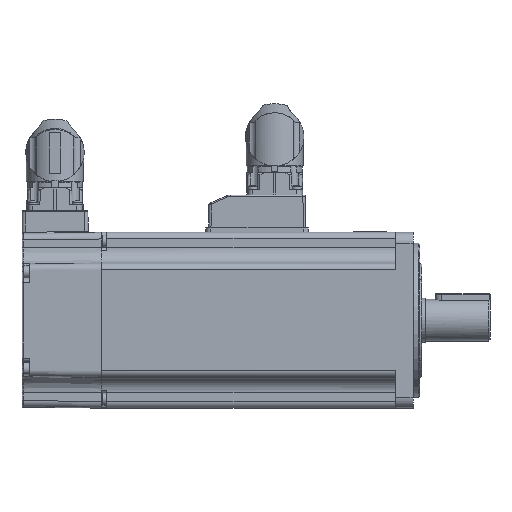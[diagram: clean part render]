
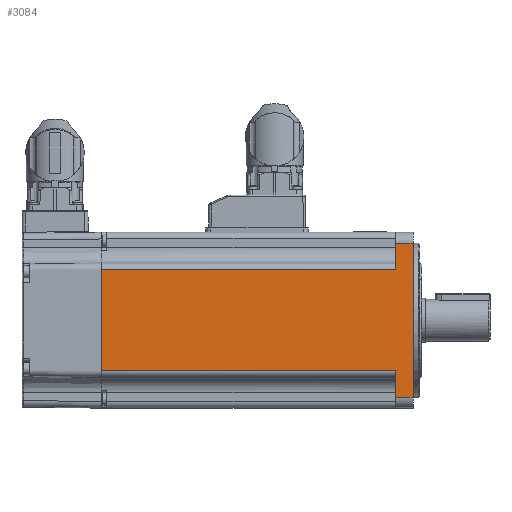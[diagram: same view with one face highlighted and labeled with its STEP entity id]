
A CAD part, left-side view. The second image highlights one B-rep face of the part: STEP entity #3084.
In plain terms, the highlighted planar face has unit normal (-1, 0, 0).
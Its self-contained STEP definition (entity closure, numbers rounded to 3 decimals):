
#3084 = ADVANCED_FACE( '', ( #8481 ), #8482, .T. );
#8481 = FACE_OUTER_BOUND( '', #17565, .T. );
#8482 = PLANE( '', #17566 );
#17565 = EDGE_LOOP( '', ( #36140, #36141, #36142, #36143, #36144, #36145, #36146, #36147 ) );
#17566 = AXIS2_PLACEMENT_3D( '', #36148, #36149, #36150 );
#36140 = ORIENTED_EDGE( '', *, *, #57329, .T. );
#36141 = ORIENTED_EDGE( '', *, *, #57330, .F. );
#36142 = ORIENTED_EDGE( '', *, *, #57331, .T. );
#36143 = ORIENTED_EDGE( '', *, *, #57332, .F. );
#36144 = ORIENTED_EDGE( '', *, *, #57333, .T. );
#36145 = ORIENTED_EDGE( '', *, *, #57334, .F. );
#36146 = ORIENTED_EDGE( '', *, *, #57335, .T. );
#36147 = ORIENTED_EDGE( '', *, *, #57336, .F. );
#36148 = CARTESIAN_POINT( '', ( -40., 188.036, 40. ) );
#36149 = DIRECTION( '', ( -1., 0., 0. ) );
#36150 = DIRECTION( '', ( 0., 0., 1. ) );
#57329 = EDGE_CURVE( '', #67767, #67768, #67769, .T. );
#57330 = EDGE_CURVE( '', #67770, #67768, #67771, .T. );
#57331 = EDGE_CURVE( '', #67770, #67772, #67773, .F. );
#57332 = EDGE_CURVE( '', #67774, #67772, #67775, .T. );
#57333 = EDGE_CURVE( '', #67774, #67776, #67777, .T. );
#57334 = EDGE_CURVE( '', #67778, #67776, #67779, .T. );
#57335 = EDGE_CURVE( '', #67778, #67780, #67781, .F. );
#57336 = EDGE_CURVE( '', #67767, #67780, #67782, .T. );
#67767 = VERTEX_POINT( '', #85444 );
#67768 = VERTEX_POINT( '', #85445 );
#67769 = LINE( '', #85446, #85447 );
#67770 = VERTEX_POINT( '', #85448 );
#67771 = LINE( '', #85449, #85450 );
#67772 = VERTEX_POINT( '', #85451 );
#67773 = LINE( '', #85452, #85453 );
#67774 = VERTEX_POINT( '', #85454 );
#67775 = LINE( '', #85455, #85456 );
#67776 = VERTEX_POINT( '', #85457 );
#67777 = LINE( '', #85458, #85459 );
#67778 = VERTEX_POINT( '', #85460 );
#67779 = LINE( '', #85461, #85462 );
#67780 = VERTEX_POINT( '', #85463 );
#67781 = LINE( '', #85464, #85465 );
#67782 = LINE( '', #85466, #85467 );
#85444 = CARTESIAN_POINT( '', ( -40., -1., 23. ) );
#85445 = CARTESIAN_POINT( '', ( -40., 133., 23. ) );
#85446 = CARTESIAN_POINT( '', ( -40., 188.036, 23. ) );
#85447 = VECTOR( '', #109682, 1000. );
#85448 = CARTESIAN_POINT( '', ( -40., 133., -23. ) );
#85449 = CARTESIAN_POINT( '', ( -40., 133., -40. ) );
#85450 = VECTOR( '', #109683, 1000. );
#85451 = CARTESIAN_POINT( '', ( -40., -1., -23. ) );
#85452 = CARTESIAN_POINT( '', ( -40., 188.036, -23. ) );
#85453 = VECTOR( '', #109684, 1000. );
#85454 = CARTESIAN_POINT( '', ( -40., -1., -35. ) );
#85455 = CARTESIAN_POINT( '', ( -40., -1., 40. ) );
#85456 = VECTOR( '', #109685, 1000. );
#85457 = CARTESIAN_POINT( '', ( -40., -9., -35. ) );
#85458 = CARTESIAN_POINT( '', ( -40., 188.036, -35. ) );
#85459 = VECTOR( '', #109686, 1000. );
#85460 = CARTESIAN_POINT( '', ( -40., -9., 35. ) );
#85461 = CARTESIAN_POINT( '', ( -40., -9., 40. ) );
#85462 = VECTOR( '', #109687, 1000. );
#85463 = CARTESIAN_POINT( '', ( -40., -1., 35. ) );
#85464 = CARTESIAN_POINT( '', ( -40., 188.036, 35. ) );
#85465 = VECTOR( '', #109688, 1000. );
#85466 = CARTESIAN_POINT( '', ( -40., -1., 40. ) );
#85467 = VECTOR( '', #109689, 1000. );
#109682 = DIRECTION( '', ( 0., 1., 0. ) );
#109683 = DIRECTION( '', ( 0., 0., 1. ) );
#109684 = DIRECTION( '', ( 0., 1., 0. ) );
#109685 = DIRECTION( '', ( 0., 0., 1. ) );
#109686 = DIRECTION( '', ( 0., -1., 0. ) );
#109687 = DIRECTION( '', ( 0., 0., -1. ) );
#109688 = DIRECTION( '', ( 0., -1., 0. ) );
#109689 = DIRECTION( '', ( 0., 0., 1. ) );
